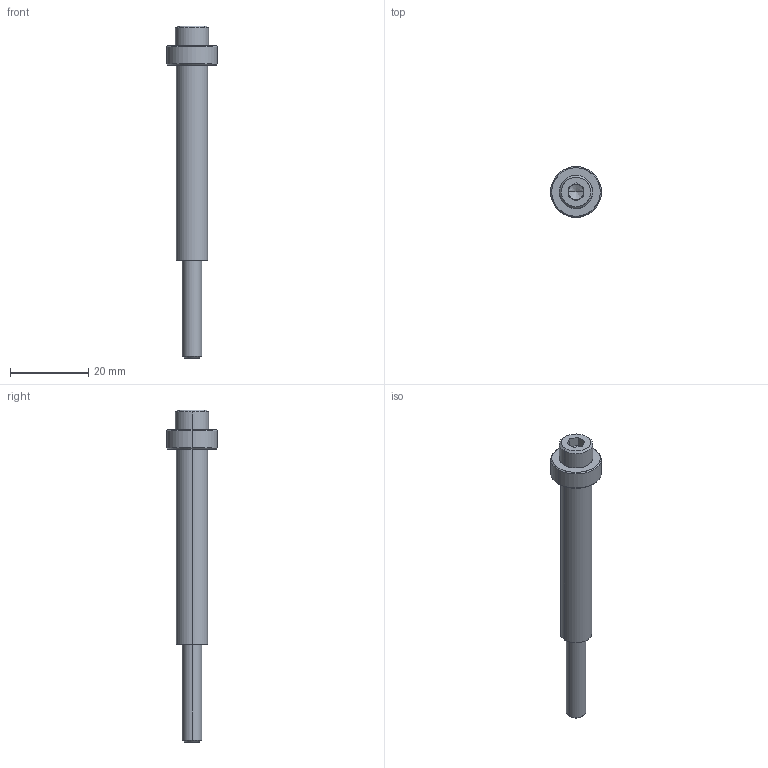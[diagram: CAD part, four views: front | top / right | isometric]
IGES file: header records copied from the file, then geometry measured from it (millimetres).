
Global section: file name: E:\UnigraphicsGraphicData\MISUMI_PRESS-PARTS\IGES\3d_sbth8-50-80_05158_r00.igs; native system: NX V5.0; preprocessor: UGS NX IGES V5.0; author: MISUMI; date: 20110105.162501; units: millimetre
Bounding box: 13 x 13 x 85 mm (x, y, z)
Surface area: 4109.9 mm2 (no closed solid volume)
Topology: 0 solids, 0 shells, 45 faces, 252 edges, 250 vertices
Faces by surface type: bspline 45
